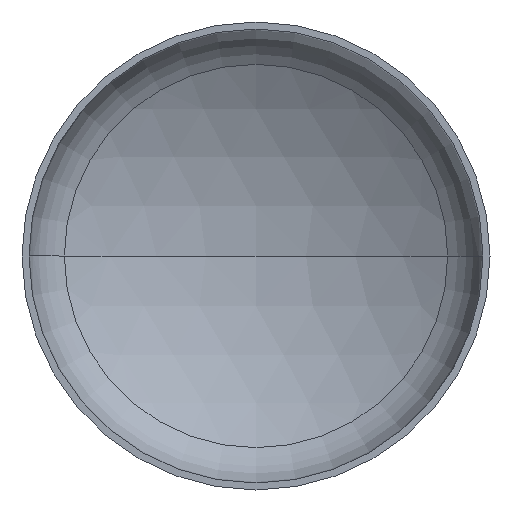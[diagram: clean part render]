
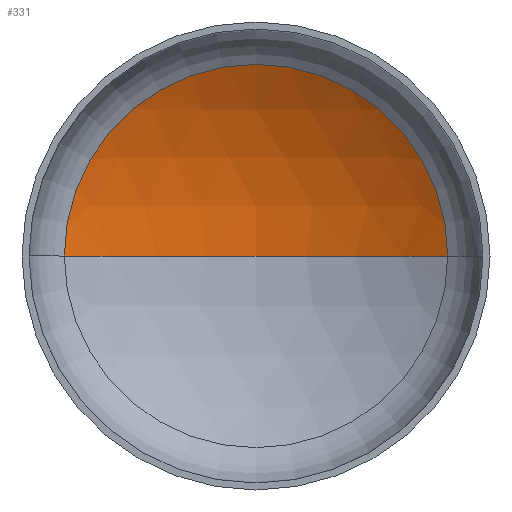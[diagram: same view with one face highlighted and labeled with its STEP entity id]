
A CAD part, front view. The second image highlights one B-rep face of the part: STEP entity #331.
In plain terms, the highlighted spherical face has radius 1760 mm.
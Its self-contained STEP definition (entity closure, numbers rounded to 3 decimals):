
#3 = AXIS2_PLACEMENT_3D ( 'NONE', #52, #283, #120 ) ;
#8 = AXIS2_PLACEMENT_3D ( 'NONE', #169, #216, #214 ) ;
#15 = AXIS2_PLACEMENT_3D ( 'NONE', #291, #270, #202 ) ;
#16 = EDGE_LOOP ( 'NONE', ( #347, #45, #162 ) ) ;
#45 = ORIENTED_EDGE ( 'NONE', *, *, #360, .T. ) ;
#52 = CARTESIAN_POINT ( 'NONE',  ( 0., -1119.783, 0. ) ) ;
#63 = VERTEX_POINT ( 'NONE', #151 ) ;
#79 = VERTEX_POINT ( 'NONE', #252 ) ;
#109 = VERTEX_POINT ( 'NONE', #248 ) ;
#120 = DIRECTION ( 'NONE',  ( -1., 0., 0. ) ) ;
#133 = DIRECTION ( 'NONE',  ( 0., -1., 0. ) ) ;
#135 = CARTESIAN_POINT ( 'NONE',  ( 0., 392.061, 0. ) ) ;
#140 = CIRCLE ( 'NONE', #363, 901.07 ) ;
#151 = CARTESIAN_POINT ( 'NONE',  ( -901.07, 392.061, 0. ) ) ;
#158 = DIRECTION ( 'NONE',  ( 1., 0., 0. ) ) ;
#162 = ORIENTED_EDGE ( 'NONE', *, *, #368, .T. ) ;
#169 = CARTESIAN_POINT ( 'NONE',  ( 0., -1119.783, 0. ) ) ;
#202 = DIRECTION ( 'NONE',  ( -1., 0., 0. ) ) ;
#214 = DIRECTION ( 'NONE',  ( 1., 0., 0. ) ) ;
#216 = DIRECTION ( 'NONE',  ( 0., 0., 1. ) ) ;
#221 = SPHERICAL_SURFACE ( 'NONE', #15, 1760. ) ;
#248 = CARTESIAN_POINT ( 'NONE',  ( 0., 640.217, 0. ) ) ;
#252 = CARTESIAN_POINT ( 'NONE',  ( 901.07, 392.061, 0. ) ) ;
#270 = DIRECTION ( 'NONE',  ( 0., 0., -1. ) ) ;
#282 = CIRCLE ( 'NONE', #8, 1760. ) ;
#283 = DIRECTION ( 'NONE',  ( 0., 0., -1. ) ) ;
#291 = CARTESIAN_POINT ( 'NONE',  ( 0., -1119.783, 0. ) ) ;
#331 = ADVANCED_FACE ( 'NONE', ( #352 ), #221, .F. ) ;
#333 = CIRCLE ( 'NONE', #3, 1760. ) ;
#344 = EDGE_CURVE ( 'NONE', #109, #63, #282, .T. ) ;
#347 = ORIENTED_EDGE ( 'NONE', *, *, #344, .F. ) ;
#352 = FACE_OUTER_BOUND ( 'NONE', #16, .T. ) ;
#360 = EDGE_CURVE ( 'NONE', #109, #79, #333, .T. ) ;
#363 = AXIS2_PLACEMENT_3D ( 'NONE', #135, #133, #158 ) ;
#368 = EDGE_CURVE ( 'NONE', #79, #63, #140, .T. ) ;
